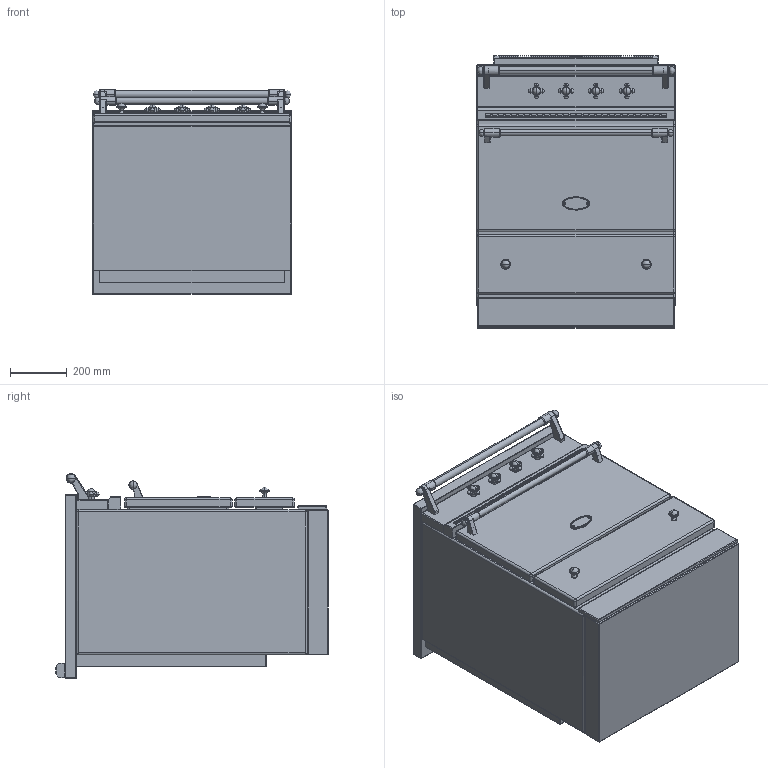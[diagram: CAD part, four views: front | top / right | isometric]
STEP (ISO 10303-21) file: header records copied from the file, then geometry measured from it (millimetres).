
FILE_DESCRIPTION((''),'2;1');
FILE_NAME('LVI731_ASM','2021-12-01T16:25:46',('j.cheno'),(''),'CREO PARAMETRIC BY PTC INC, 2017260','CREO PARAMETRIC BY PTC INC, 2017260','');
FILE_SCHEMA(('AP203_CONFIGURATION_CONTROLLED_3D_DESIGN_OF_MECHANICAL_PARTS_AND_ASSEMBLIES_MIM_LF { 1 0 10303 403 2 1 2 }'));
Products named in the file (18): BASE_EXPORT_CORMATIN_3F; 65650003; 65650004; 6531940; 6531941; 6538399; 1931942; 65080022_AF0; 6531942_ASM; 6531943; 65049009; 65650001; BASE_EXPORT_CORMATIN_3F_ASM; TABLE_700_VITRO_INDUCT; 65052012; CHEMINEE_2020_LG582_EXPORT_STEP; TABLE_700_INDUCT_ASM; LVI731_ASM
Assembly tree (21 placements, depth 4):
  LVI731_ASM
    BASE_EXPORT_CORMATIN_3F_ASM
      BASE_EXPORT_CORMATIN_3F
      65650003
      65650004
      6531940
      6531941
      6531942_ASM  x4
        6538399
        1931942
        65080022_AF0
      6531943  x2
      65049009
      65650001
    TABLE_700_INDUCT_ASM
      TABLE_700_VITRO_INDUCT
      65052012
      CHEMINEE_2020_LG582_EXPORT_STEP
Bounding box: 700 x 963 x 724 mm (x, y, z)
Volume: 377200791.3 mm3; surface area: 6580320.8 mm2
Topology: 30 solids, 36 shells, 3219 faces, 8739 edges, 5601 vertices
Faces by surface type: plane 1736, cylinder 1004, sphere 125, torus 122, extrusion 114, bspline 56, cone 54, revolution 8
Entity records: 91240 total; most frequent: CARTESIAN_POINT 20211, ORIENTED_EDGE 12286, DIRECTION 11810, EDGE_CURVE 6153, VECTOR 4235, LINE 4205, VERTEX_POINT 3982, AXIS2_PLACEMENT_3D 3758
